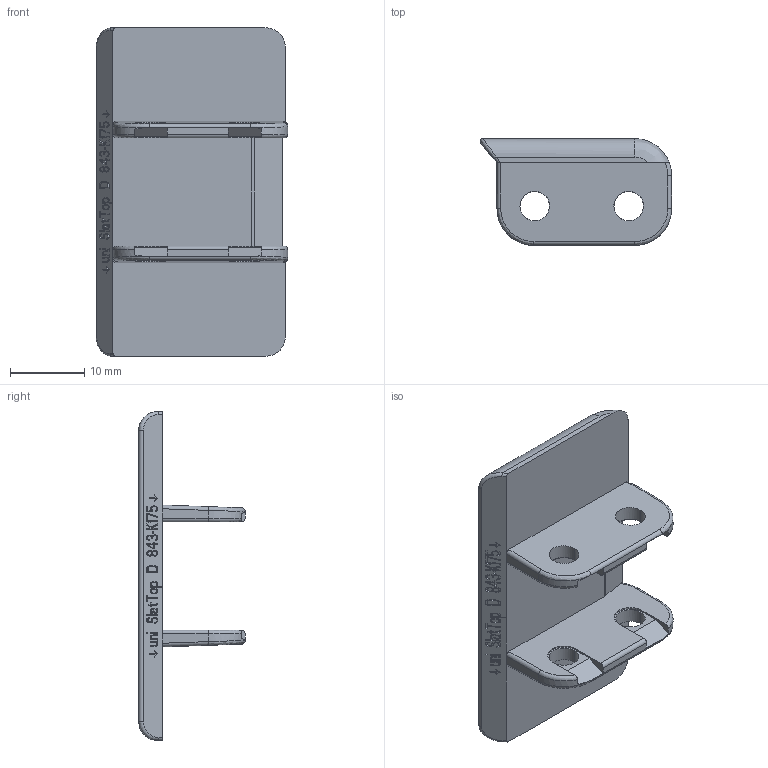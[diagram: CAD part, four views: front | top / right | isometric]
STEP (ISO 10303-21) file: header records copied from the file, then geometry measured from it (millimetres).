
FILE_DESCRIPTION((''),'2;1');
FILE_NAME('P1237','2015-12-02T',('bhe'),(''),'CREO PARAMETRIC BY PTC INC, 2015290','CREO PARAMETRIC BY PTC INC, 2015290','');
FILE_SCHEMA(('CONFIG_CONTROL_DESIGN'));
Length unit declared in the file: millimetre
Products named in the file (1): P1237
Bounding box: 25.85 x 14.38 x 44.4 mm (x, y, z)
Volume: 4118.7 mm3; surface area: 3531 mm2
Topology: 1 solids, 1 shells, 648 faces, 1825 edges, 1208 vertices
Faces by surface type: plane 597, cylinder 35, bspline 10, torus 6
Entity records: 21478 total; most frequent: CARTESIAN_POINT 4734, ORIENTED_EDGE 3650, DIRECTION 3117, EDGE_CURVE 1825, VECTOR 1717, LINE 1717, VERTEX_POINT 1208, AXIS2_PLACEMENT_3D 700
